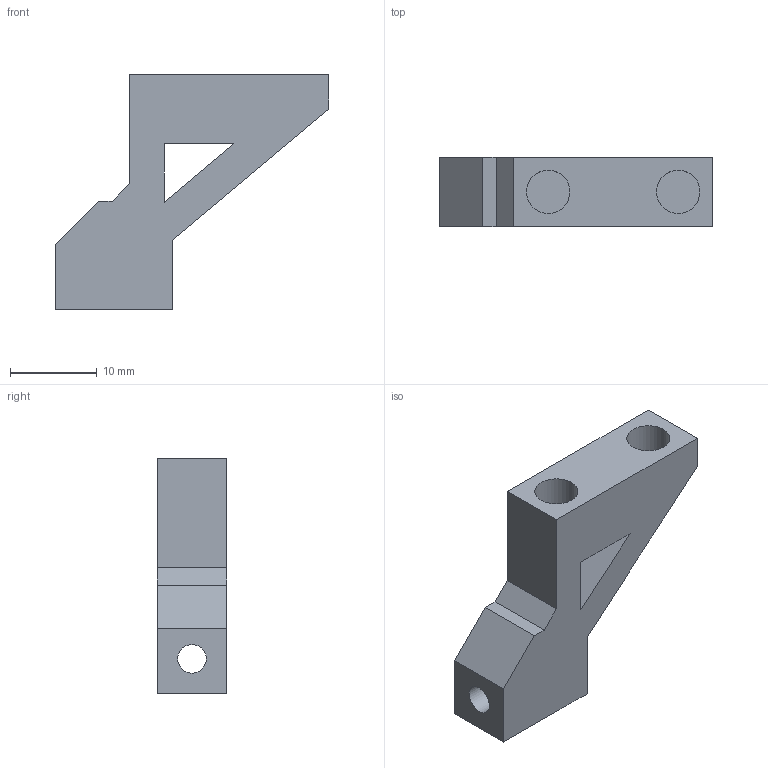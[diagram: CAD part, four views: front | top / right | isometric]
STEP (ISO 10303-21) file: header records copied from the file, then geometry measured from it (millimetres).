
FILE_DESCRIPTION(/* description */ ('STEP AP242 Edition 2','CAx-IF Rec.Pracs.---Representation and Presentation of Product Manufacturing Information (PMI)---4.0---2014-10-13','CAx-IF Rec.Pracs.---3D Tessellated Geometry---0.4---2014-09-14','2;1','CAx-IF Rec.Pracs.---User Defined Attributes---1.5---2016-08-15'),/* implementation_level */ '2;1');
FILE_NAME(/* name */ 'Part Studio 1 - Back Wheel Strut',/* time_stamp */ '2026-04-09T20:19:24Z',/* author */ (''),/* organization */ (''),/* preprocessor_version */ 'ST-DEVELOPER v20',/* originating_system */ 'ONSHAPE BY PTC INC, 1.213',/* authorisation */ ' ');
FILE_SCHEMA (('AP242_MANAGED_MODEL_BASED_3D_ENGINEERING_MIM_LF { 1 0 10303 442 3 1 4 }'));
Length unit declared in the file: metre
Products named in the file (1): Back Wheel Strut
Bounding box: 31.6 x 8 x 27.1 mm (x, y, z)
Volume: 3034.9 mm3; surface area: 2107.7 mm2
Topology: 1 solids, 1 shells, 20 faces, 49 edges, 33 vertices
Faces by surface type: plane 17, cylinder 3
Full cylindrical faces by diameter (mm): 3.3 x1, 5 x2
Entity records: 593 total; most frequent: CARTESIAN_POINT 98, DIRECTION 93, ORIENTED_EDGE 90, EDGE_CURVE 45, LINE 39, VECTOR 39, VERTEX_POINT 32, EDGE_LOOP 29
